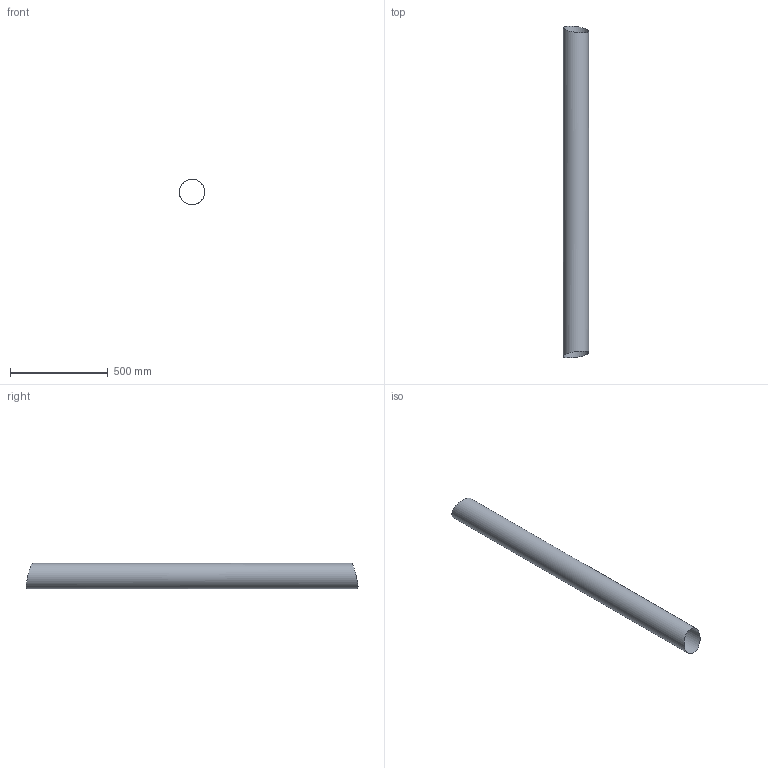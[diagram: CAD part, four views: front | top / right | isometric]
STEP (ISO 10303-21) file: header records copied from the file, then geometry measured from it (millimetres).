
FILE_DESCRIPTION(('BRL-CAD AP214 offset-vertex periodic band fixture'),'2;1');
FILE_NAME('ap214_offset_vertex_periodic_band.stp','2026-07-21T00:00:00',('BRL-CAD'),('BRL-CAD'),'','','');
FILE_SCHEMA(('AUTOMOTIVE_DESIGN { 1 0 10303 214 3 1 1 1 }'));
Length unit declared in the file: millimetre
Products named in the file (1): offset_vertex_periodic_band
Bounding box: 129.96 x 1698.69 x 129.98 mm (x, y, z)
Surface area: 679223.9 mm2 (no closed solid volume)
Topology: 0 solids, 1 shells, 1 faces, 3 edges, 2 vertices
Faces by surface type: cylinder 1
Full cylindrical faces by diameter (mm): 130 x1
Entity records: 41 total; most frequent: DIRECTION 6, CARTESIAN_POINT 5, AXIS2_PLACEMENT_3D 3, VERTEX_POINT 2, ELLIPSE 2, EDGE_CURVE 2, ORIENTED_EDGE 2, EDGE_LOOP 2
